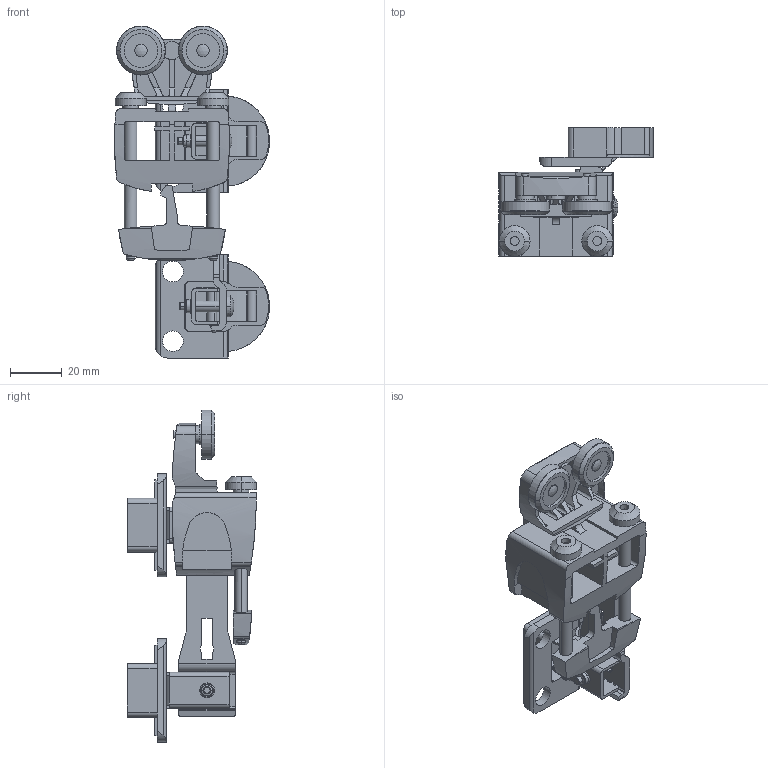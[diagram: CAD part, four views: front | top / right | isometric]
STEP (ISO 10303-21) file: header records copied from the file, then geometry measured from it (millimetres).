
FILE_DESCRIPTION( ( '' ), '1' );
FILE_NAME( 'D:/temp/hettich_stp/hettich/4_folding_sliding/4.4_folding_door/20kg_wl_770-wl_770_alu/wl_770_right/1079974.stp', '2013-02-26T10:21:25', ( '' ), ( '' ), ' ', ' ', ' ' );
FILE_SCHEMA( ( 'automotive_design' ) );
Length unit declared in the file: millimetre
Products named in the file (1): 1
Bounding box: 60.03 x 49.98 x 128.6 mm (x, y, z)
Volume: 56454.5 mm3; surface area: 38695.9 mm2
Topology: 1 solids, 1 shells, 822 faces, 2496 edges, 1647 vertices
Faces by surface type: plane 497, cylinder 279, cone 24, torus 20, sphere 2
Entity records: 56685 total; most frequent: CARTESIAN_POINT 6382, ORIENTED_EDGE 4984, STYLED_ITEM 4962, PRESENTATION_STYLE_ASSIGNMENT 4962, COLOUR_RGB 4962, DIRECTION 4763, EDGE_CURVE 2492, CURVE_STYLE 2492
